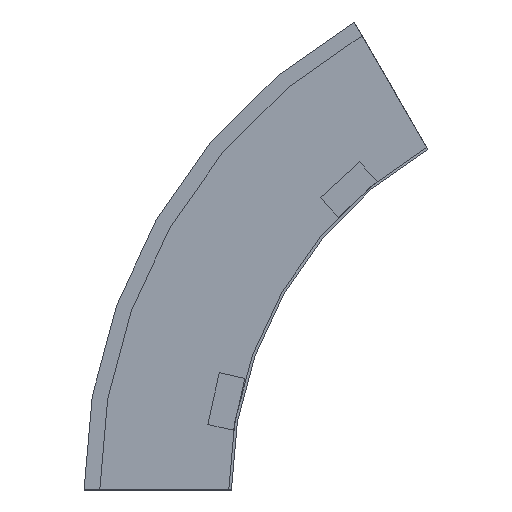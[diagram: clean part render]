
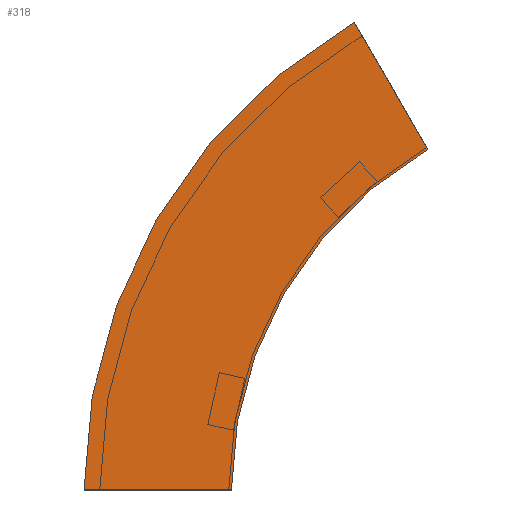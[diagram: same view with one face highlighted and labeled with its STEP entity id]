
A CAD part, left-side view. The second image highlights one B-rep face of the part: STEP entity #318.
In plain terms, the highlighted planar face has unit normal (-1, 0, 0) as drawn and (1, 0, 0) by its records, which use the part's own axes.
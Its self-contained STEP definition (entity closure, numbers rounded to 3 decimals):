
#10 = DIRECTION ( 'NONE',  ( 0., 1., 0. ) ) ;
#36 = EDGE_CURVE ( 'NONE', #517, #334, #501, .T. ) ;
#47 = CARTESIAN_POINT ( 'NONE',  ( 0., 112.5, 0. ) ) ;
#78 = CARTESIAN_POINT ( 'NONE',  ( 0., 0., 0. ) ) ;
#104 = CARTESIAN_POINT ( 'NONE',  ( 0., -150., 259.808 ) ) ;
#136 = EDGE_CURVE ( 'NONE', #537, #334, #461, .T. ) ;
#157 = AXIS2_PLACEMENT_3D ( 'NONE', #248, #417, #465 ) ;
#164 = DIRECTION ( 'NONE',  ( 0., 0., -1. ) ) ;
#167 = CARTESIAN_POINT ( 'NONE',  ( 0., 0., 0. ) ) ;
#169 = CARTESIAN_POINT ( 'NONE',  ( 0., -150., 259.808 ) ) ;
#171 = ORIENTED_EDGE ( 'NONE', *, *, #36, .F. ) ;
#201 = DIRECTION ( 'NONE',  ( 1., 0., 0. ) ) ;
#206 = CARTESIAN_POINT ( 'NONE',  ( 0., -300., 0. ) ) ;
#218 = VECTOR ( 'NONE', #10, 1000. ) ;
#224 = VERTEX_POINT ( 'NONE', #167 ) ;
#232 = CIRCLE ( 'NONE', #562, 300. ) ;
#236 = AXIS2_PLACEMENT_3D ( 'NONE', #78, #372, #164 ) ;
#248 = CARTESIAN_POINT ( 'NONE',  ( 0., -300., 0. ) ) ;
#254 = ORIENTED_EDGE ( 'NONE', *, *, #442, .F. ) ;
#269 = DIRECTION ( 'NONE',  ( 0., 0.5, 0.866 ) ) ;
#279 = ORIENTED_EDGE ( 'NONE', *, *, #136, .T. ) ;
#284 = PLANE ( 'NONE',  #236 ) ;
#303 = ORIENTED_EDGE ( 'NONE', *, *, #402, .T. ) ;
#318 = ADVANCED_FACE ( 'NONE', ( #469 ), #284, .T. ) ;
#334 = VERTEX_POINT ( 'NONE', #463 ) ;
#367 = DIRECTION ( 'NONE',  ( 0., 1., 0. ) ) ;
#372 = DIRECTION ( 'NONE',  ( 1., 0., 0. ) ) ;
#402 = EDGE_CURVE ( 'NONE', #224, #537, #547, .T. ) ;
#417 = DIRECTION ( 'NONE',  ( 1., 0., 0. ) ) ;
#442 = EDGE_CURVE ( 'NONE', #224, #517, #232, .T. ) ;
#444 = EDGE_LOOP ( 'NONE', ( #279, #171, #254, #303 ) ) ;
#461 = CIRCLE ( 'NONE', #157, 412.5 ) ;
#463 = CARTESIAN_POINT ( 'NONE',  ( 0., -93.75, 357.235 ) ) ;
#465 = DIRECTION ( 'NONE',  ( 0., 1., 0. ) ) ;
#469 = FACE_OUTER_BOUND ( 'NONE', #444, .T. ) ;
#501 = LINE ( 'NONE', #104, #518 ) ;
#503 = CARTESIAN_POINT ( 'NONE',  ( 0., 0., 0. ) ) ;
#517 = VERTEX_POINT ( 'NONE', #169 ) ;
#518 = VECTOR ( 'NONE', #269, 1000. ) ;
#537 = VERTEX_POINT ( 'NONE', #47 ) ;
#547 = LINE ( 'NONE', #503, #218 ) ;
#562 = AXIS2_PLACEMENT_3D ( 'NONE', #206, #201, #367 ) ;
